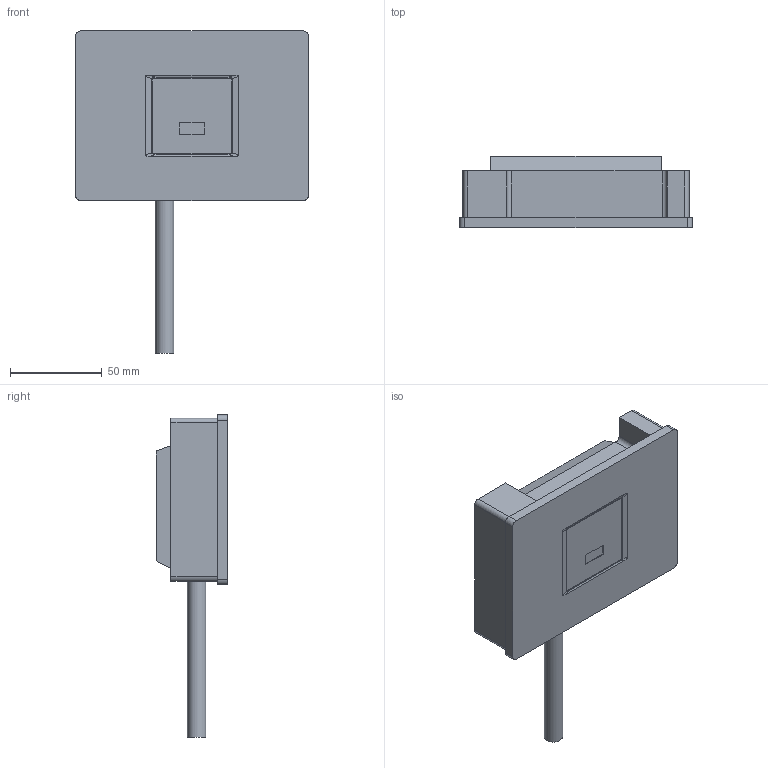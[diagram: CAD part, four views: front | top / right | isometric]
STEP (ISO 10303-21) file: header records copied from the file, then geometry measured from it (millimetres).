
FILE_DESCRIPTION(/* description */ (''),/* implementation_level */ '2;1');
FILE_NAME(/* name */ '116490.stp',/* time_stamp */ '2023-07-04T12:10:20+02:00',/* author */ ('JANAN'),/* organization */ (''),/* preprocessor_version */ 'ST-DEVELOPER v19.2',/* originating_system */ 'Autodesk Inventor 2023',/* authorisation */ '');
FILE_SCHEMA (('AUTOMOTIVE_DESIGN { 1 0 10303 214 3 1 1 }'));
Length unit declared in the file: millimetre
Products named in the file (1): tmp2E43.tmp
Bounding box: 127 x 39 x 175.7 mm (x, y, z)
Volume: 364039.1 mm3; surface area: 64896.6 mm2
Topology: 4 solids, 4 shells, 65 faces, 158 edges, 102 vertices
Faces by surface type: plane 42, cylinder 19, bspline 4
Full cylindrical faces by diameter (mm): 10 x1
Entity records: 2016 total; most frequent: CARTESIAN_POINT 346, DIRECTION 324, ORIENTED_EDGE 316, EDGE_CURVE 158, LINE 116, VECTOR 116, AXIS2_PLACEMENT_3D 104, VERTEX_POINT 102
